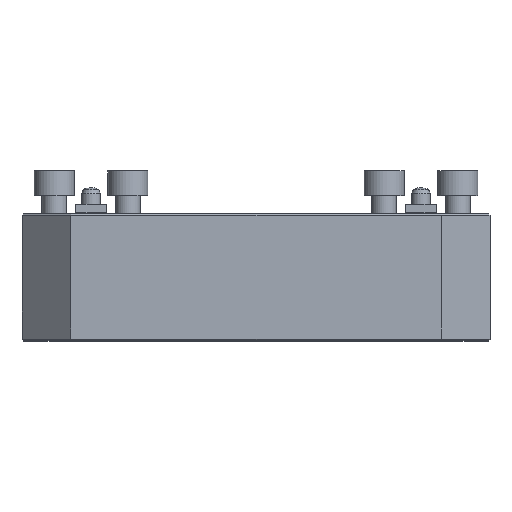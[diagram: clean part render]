
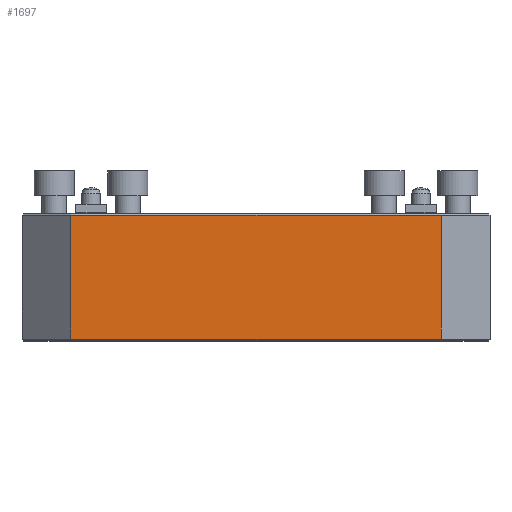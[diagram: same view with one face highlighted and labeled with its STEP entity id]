
A CAD part, top view. The second image highlights one B-rep face of the part: STEP entity #1697.
In plain terms, the highlighted planar face has unit normal (0, 0, 1).
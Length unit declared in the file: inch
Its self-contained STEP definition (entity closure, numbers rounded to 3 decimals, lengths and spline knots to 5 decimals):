
#316 = VERTEX_POINT ( 'NONE', #10996 ) ;
#869 = VERTEX_POINT ( 'NONE', #4583 ) ;
#1042 = CARTESIAN_POINT ( 'NONE',  ( 2.375, 1.675, 2.475 ) ) ;
#1697 = ADVANCED_FACE ( 'NONE', ( #12866 ), #14132, .F. ) ;
#1891 = CARTESIAN_POINT ( 'NONE',  ( 2.375, 0.045, 2.475 ) ) ;
#2285 = DIRECTION ( 'NONE',  ( -1., 0., 0. ) ) ;
#2854 = ORIENTED_EDGE ( 'NONE', *, *, #9920, .T. ) ;
#2930 = CARTESIAN_POINT ( 'NONE',  ( 2.375, 1.63, 2.475 ) ) ;
#4163 = VERTEX_POINT ( 'NONE', #12427 ) ;
#4583 = CARTESIAN_POINT ( 'NONE',  ( -2.375, 0.045, 2.475 ) ) ;
#4736 = LINE ( 'NONE', #13935, #15601 ) ;
#4852 = ORIENTED_EDGE ( 'NONE', *, *, #9422, .T. ) ;
#5133 = ORIENTED_EDGE ( 'NONE', *, *, #15657, .T. ) ;
#5940 = LINE ( 'NONE', #15133, #14768 ) ;
#8292 = DIRECTION ( 'NONE',  ( 1., 0., 0. ) ) ;
#8897 = LINE ( 'NONE', #1042, #11769 ) ;
#8960 = EDGE_CURVE ( 'NONE', #316, #869, #5940, .T. ) ;
#9422 = EDGE_CURVE ( 'NONE', #14873, #316, #4736, .T. ) ;
#9920 = EDGE_CURVE ( 'NONE', #4163, #14873, #8897, .T. ) ;
#10042 = DIRECTION ( 'NONE',  ( -1., 0., 0. ) ) ;
#10227 = CARTESIAN_POINT ( 'NONE',  ( -3., 1.675, 2.475 ) ) ;
#10303 = DIRECTION ( 'NONE',  ( 0., 0., -1. ) ) ;
#10676 = LINE ( 'NONE', #1891, #10749 ) ;
#10749 = VECTOR ( 'NONE', #8292, 39.37008 ) ;
#10996 = CARTESIAN_POINT ( 'NONE',  ( -2.375, 1.63, 2.475 ) ) ;
#11769 = VECTOR ( 'NONE', #15549, 39.37008 ) ;
#12395 = ORIENTED_EDGE ( 'NONE', *, *, #8960, .T. ) ;
#12427 = CARTESIAN_POINT ( 'NONE',  ( 2.375, 0.045, 2.475 ) ) ;
#12568 = DIRECTION ( 'NONE',  ( 0., -1., 0. ) ) ;
#12798 = AXIS2_PLACEMENT_3D ( 'NONE', #10227, #10303, #10042 ) ;
#12866 = FACE_OUTER_BOUND ( 'NONE', #13125, .T. ) ;
#13125 = EDGE_LOOP ( 'NONE', ( #2854, #4852, #12395, #5133 ) ) ;
#13935 = CARTESIAN_POINT ( 'NONE',  ( -3., 1.63, 2.475 ) ) ;
#14132 = PLANE ( 'NONE',  #12798 ) ;
#14768 = VECTOR ( 'NONE', #12568, 39.37008 ) ;
#14873 = VERTEX_POINT ( 'NONE', #2930 ) ;
#15133 = CARTESIAN_POINT ( 'NONE',  ( -2.375, 1.675, 2.475 ) ) ;
#15549 = DIRECTION ( 'NONE',  ( 0., 1., 0. ) ) ;
#15601 = VECTOR ( 'NONE', #2285, 39.37008 ) ;
#15657 = EDGE_CURVE ( 'NONE', #869, #4163, #10676, .T. ) ;
